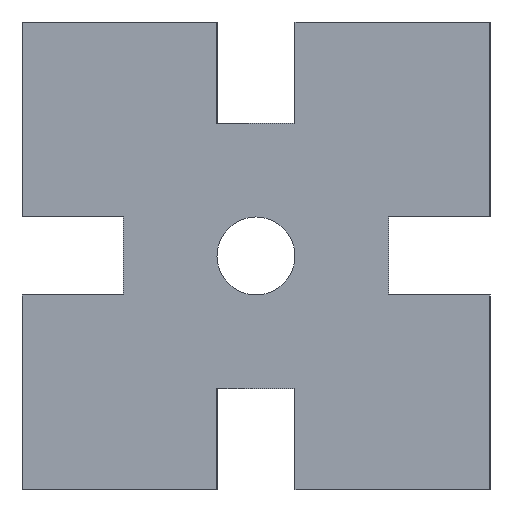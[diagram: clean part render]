
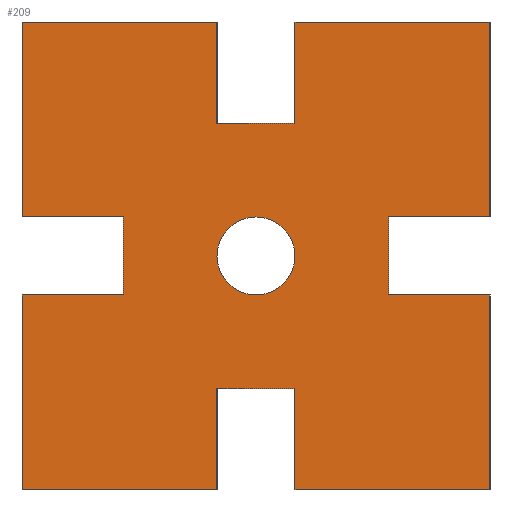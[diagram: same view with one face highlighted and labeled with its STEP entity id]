
A CAD part, left-side view. The second image highlights one B-rep face of the part: STEP entity #209.
In plain terms, the highlighted planar face has unit normal (-1, 0, 0).
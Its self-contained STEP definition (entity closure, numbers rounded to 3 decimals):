
#163=EDGE_CURVE('',#299,#389,#450,.T.);
#181=EDGE_CURVE('',#415,#423,#471,.T.);
#187=EDGE_CURVE('',#387,#327,#477,.T.);
#195=EDGE_CURVE('',#263,#385,#487,.T.);
#203=EDGE_CURVE('',#229,#369,#495,.T.);
#207=EDGE_CURVE('',#309,#263,#499,.T.);
#209=ADVANCED_FACE('',(#501,#502),#503,.F.);
#213=EDGE_CURVE('',#369,#303,#507,.T.);
#219=VERTEX_POINT('',#515);
#221=EDGE_CURVE('',#321,#427,#517,.T.);
#225=VERTEX_POINT('',#521);
#229=VERTEX_POINT('',#525);
#237=EDGE_CURVE('',#337,#297,#533,.T.);
#255=EDGE_CURVE('',#427,#345,#552,.T.);
#263=VERTEX_POINT('',#562);
#271=EDGE_CURVE('',#317,#355,#570,.T.);
#275=EDGE_CURVE('',#297,#321,#574,.T.);
#277=EDGE_CURVE('',#225,#337,#576,.T.);
#297=VERTEX_POINT('',#598);
#299=VERTEX_POINT('',#600);
#301=EDGE_CURVE('',#385,#219,#602,.T.);
#303=VERTEX_POINT('',#604);
#305=EDGE_CURVE('',#219,#387,#606,.T.);
#309=VERTEX_POINT('',#611);
#311=EDGE_CURVE('',#389,#309,#613,.T.);
#317=VERTEX_POINT('',#619);
#319=EDGE_CURVE('',#327,#317,#621,.T.);
#321=VERTEX_POINT('',#623);
#327=VERTEX_POINT('',#629);
#329=EDGE_CURVE('',#423,#415,#631,.T.);
#337=VERTEX_POINT('',#640);
#341=EDGE_CURVE('',#345,#229,#645,.T.);
#345=VERTEX_POINT('',#649);
#355=VERTEX_POINT('',#660);
#357=EDGE_CURVE('',#403,#299,#662,.T.);
#369=VERTEX_POINT('',#675);
#383=EDGE_CURVE('',#303,#403,#690,.T.);
#385=VERTEX_POINT('',#692);
#387=VERTEX_POINT('',#694);
#389=VERTEX_POINT('',#696);
#391=EDGE_CURVE('',#355,#225,#698,.T.);
#403=VERTEX_POINT('',#711);
#415=VERTEX_POINT('',#726);
#423=VERTEX_POINT('',#735);
#427=VERTEX_POINT('',#739);
#450=LINE('',#753,#754);
#471=CIRCLE('',#784,5.0);
#477=LINE('',#794,#795);
#487=LINE('',#808,#809);
#495=LINE('',#822,#823);
#499=LINE('',#828,#829);
#501=FACE_BOUND('',#831,.T.);
#502=FACE_OUTER_BOUND('',#832,.T.);
#503=PLANE('',#833);
#507=LINE('',#840,#841);
#515=CARTESIAN_POINT('',(0.0,-5.0,17.0));
#517=LINE('',#852,#853);
#521=CARTESIAN_POINT('',(0.0,17.0,5.0));
#525=CARTESIAN_POINT('',(0.0,-5.0,-17.0));
#533=LINE('',#873,#874);
#552=LINE('',#906,#907);
#562=CARTESIAN_POINT('',(0.0,-30.0,30.0));
#570=LINE('',#930,#931);
#574=LINE('',#938,#939);
#576=LINE('',#942,#943);
#598=CARTESIAN_POINT('',(0.0,30.0,-5.0));
#600=CARTESIAN_POINT('',(0.0,-17.0,-5.0));
#602=LINE('',#976,#977);
#604=CARTESIAN_POINT('',(0.0,-30.0,-30.0));
#606=LINE('',#982,#983);
#611=CARTESIAN_POINT('',(0.0,-30.0,5.0));
#613=LINE('',#991,#992);
#619=CARTESIAN_POINT('',(0.0,30.0,30.0));
#621=LINE('',#1005,#1006);
#623=CARTESIAN_POINT('',(0.0,30.0,-30.0));
#629=CARTESIAN_POINT('',(0.0,5.0,30.0));
#631=CIRCLE('',#1021,5.0);
#640=CARTESIAN_POINT('',(0.0,17.0,-5.0));
#645=LINE('',#1038,#1039);
#649=CARTESIAN_POINT('',(0.0,5.0,-17.0));
#660=CARTESIAN_POINT('',(0.0,30.0,5.0));
#662=LINE('',#1061,#1062);
#675=CARTESIAN_POINT('',(0.0,-5.0,-30.0));
#690=LINE('',#1101,#1102);
#692=CARTESIAN_POINT('',(0.0,-5.0,30.0));
#694=CARTESIAN_POINT('',(0.0,5.0,17.0));
#696=CARTESIAN_POINT('',(0.0,-17.0,5.0));
#698=LINE('',#1111,#1112);
#711=CARTESIAN_POINT('',(0.0,-30.0,-5.0));
#726=CARTESIAN_POINT('',(0.0,0.,5.0));
#735=CARTESIAN_POINT('',(0.0,0.0,-5.0));
#739=CARTESIAN_POINT('',(0.0,5.0,-30.0));
#753=CARTESIAN_POINT('',(0.0,-17.0,-5.0));
#754=VECTOR('',#1178,1.0);
#784=AXIS2_PLACEMENT_3D('',#1207,#1208,#1209);
#794=CARTESIAN_POINT('',(0.0,5.0,17.0));
#795=VECTOR('',#1214,1.0);
#808=CARTESIAN_POINT('',(0.0,-30.0,30.0));
#809=VECTOR('',#1232,1.0);
#822=CARTESIAN_POINT('',(0.0,-5.0,-17.0));
#823=VECTOR('',#1235,1.0);
#828=CARTESIAN_POINT('',(0.0,-30.0,5.0));
#829=VECTOR('',#1236,1.0);
#831=EDGE_LOOP('',(#1238,#1239));
#832=EDGE_LOOP('',(#1240,#1241,#1242,#1243,#1244,#1245,#1246,#1247,#1248,#1249,#1250,#1251,#1252,#1253,#1254,#1255,#1256,#1257,#1258,#1259));
#833=AXIS2_PLACEMENT_3D('',#1260,#1261,#1262);
#840=CARTESIAN_POINT('',(0.0,-5.0,-30.0));
#841=VECTOR('',#1264,1.0);
#852=CARTESIAN_POINT('',(0.0,30.0,-30.0));
#853=VECTOR('',#1281,1.0);
#873=CARTESIAN_POINT('',(0.0,17.0,-5.0));
#874=VECTOR('',#1286,1.0);
#906=CARTESIAN_POINT('',(0.0,5.0,-30.0));
#907=VECTOR('',#1301,1.0);
#930=CARTESIAN_POINT('',(0.0,30.0,30.0));
#931=VECTOR('',#1320,1.0);
#938=CARTESIAN_POINT('',(0.0,30.0,-5.0));
#939=VECTOR('',#1322,1.0);
#942=CARTESIAN_POINT('',(0.0,17.0,5.0));
#943=VECTOR('',#1323,1.0);
#976=CARTESIAN_POINT('',(0.0,-5.0,30.0));
#977=VECTOR('',#1343,1.0);
#982=CARTESIAN_POINT('',(0.0,-5.0,17.0));
#983=VECTOR('',#1344,1.0);
#991=CARTESIAN_POINT('',(0.0,-17.0,5.0));
#992=VECTOR('',#1353,1.0);
#1005=CARTESIAN_POINT('',(0.0,5.0,30.0));
#1006=VECTOR('',#1356,1.0);
#1021=AXIS2_PLACEMENT_3D('',#1359,#1360,#1361);
#1038=CARTESIAN_POINT('',(0.0,5.0,-17.0));
#1039=VECTOR('',#1379,1.0);
#1061=CARTESIAN_POINT('',(0.0,-30.0,-5.0));
#1062=VECTOR('',#1390,1.0);
#1101=CARTESIAN_POINT('',(0.0,-30.0,-30.0));
#1102=VECTOR('',#1412,1.0);
#1111=CARTESIAN_POINT('',(0.0,30.0,5.0));
#1112=VECTOR('',#1413,1.0);
#1178=DIRECTION('',(0.0,0.0,1.0));
#1207=CARTESIAN_POINT('',(0.0,0.0,0.0));
#1208=DIRECTION('',(1.0,0.0,0.0));
#1209=DIRECTION('',(0.0,0.0,-1.0));
#1214=DIRECTION('',(0.0,0.0,1.0));
#1232=DIRECTION('',(0.0,1.0,0.0));
#1235=DIRECTION('',(0.0,0.0,-1.0));
#1236=DIRECTION('',(0.0,0.0,1.0));
#1238=ORIENTED_EDGE('',*,*,#329,.T.);
#1239=ORIENTED_EDGE('',*,*,#181,.T.);
#1240=ORIENTED_EDGE('',*,*,#255,.T.);
#1241=ORIENTED_EDGE('',*,*,#341,.T.);
#1242=ORIENTED_EDGE('',*,*,#203,.T.);
#1243=ORIENTED_EDGE('',*,*,#213,.T.);
#1244=ORIENTED_EDGE('',*,*,#383,.T.);
#1245=ORIENTED_EDGE('',*,*,#357,.T.);
#1246=ORIENTED_EDGE('',*,*,#163,.T.);
#1247=ORIENTED_EDGE('',*,*,#311,.T.);
#1248=ORIENTED_EDGE('',*,*,#207,.T.);
#1249=ORIENTED_EDGE('',*,*,#195,.T.);
#1250=ORIENTED_EDGE('',*,*,#301,.T.);
#1251=ORIENTED_EDGE('',*,*,#305,.T.);
#1252=ORIENTED_EDGE('',*,*,#187,.T.);
#1253=ORIENTED_EDGE('',*,*,#319,.T.);
#1254=ORIENTED_EDGE('',*,*,#271,.T.);
#1255=ORIENTED_EDGE('',*,*,#391,.T.);
#1256=ORIENTED_EDGE('',*,*,#277,.T.);
#1257=ORIENTED_EDGE('',*,*,#237,.T.);
#1258=ORIENTED_EDGE('',*,*,#275,.T.);
#1259=ORIENTED_EDGE('',*,*,#221,.T.);
#1260=CARTESIAN_POINT('',(0.0,0.,0.));
#1261=DIRECTION('',(1.0,0.0,0.0));
#1262=DIRECTION('',(0.0,0.0,-1.0));
#1264=DIRECTION('',(0.0,-1.0,0.0));
#1281=DIRECTION('',(0.0,-1.0,0.0));
#1286=DIRECTION('',(0.0,1.0,0.0));
#1301=DIRECTION('',(0.0,0.0,1.0));
#1320=DIRECTION('',(0.0,0.0,-1.0));
#1322=DIRECTION('',(0.0,0.0,-1.0));
#1323=DIRECTION('',(0.0,0.0,-1.0));
#1343=DIRECTION('',(0.0,0.0,-1.0));
#1344=DIRECTION('',(0.0,1.0,0.0));
#1353=DIRECTION('',(0.0,-1.0,0.0));
#1356=DIRECTION('',(0.0,1.0,0.0));
#1359=CARTESIAN_POINT('',(0.0,0.0,0.0));
#1360=DIRECTION('',(1.0,0.0,0.0));
#1361=DIRECTION('',(0.0,0.0,-1.0));
#1379=DIRECTION('',(0.0,-1.0,0.0));
#1390=DIRECTION('',(0.0,1.0,0.0));
#1412=DIRECTION('',(0.0,0.0,1.0));
#1413=DIRECTION('',(0.0,-1.0,0.0));
